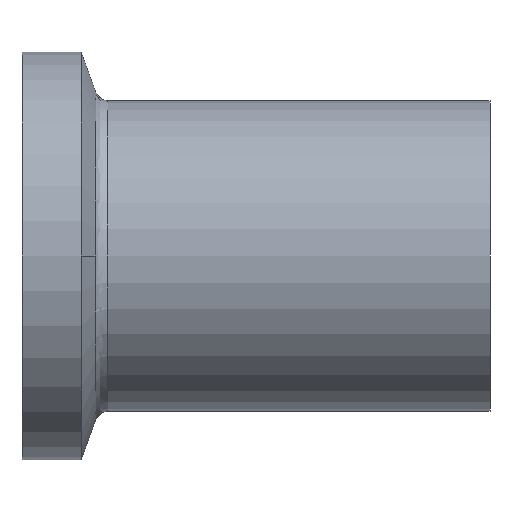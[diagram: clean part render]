
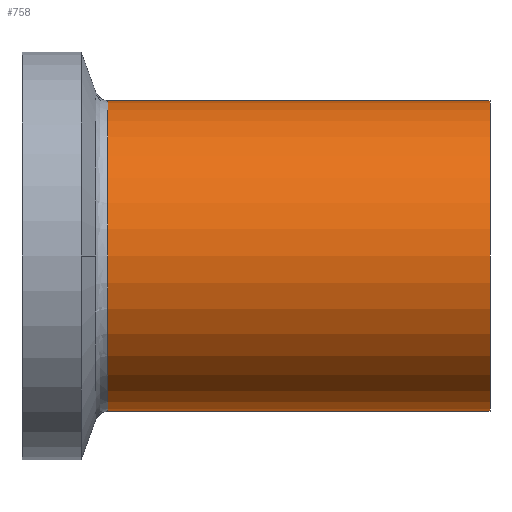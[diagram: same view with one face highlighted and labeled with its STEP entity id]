
A CAD part, front view. The second image highlights one B-rep face of the part: STEP entity #758.
In plain terms, the highlighted cylindrical face has radius 9.525 mm (diameter 19.05 mm), a partial arc.
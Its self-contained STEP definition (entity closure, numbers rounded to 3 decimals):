
#2 = DIRECTION ( 'NONE',  ( 0., 0., 1. ) ) ;
#61 = CARTESIAN_POINT ( 'NONE',  ( 28.7, 0., 9.525 ) ) ;
#146 = DIRECTION ( 'NONE',  ( -1., 0., 0. ) ) ;
#173 = DIRECTION ( 'NONE',  ( -1., 0., 0. ) ) ;
#174 = CIRCLE ( 'NONE', #526, 9.525 ) ;
#180 = ORIENTED_EDGE ( 'NONE', *, *, #215, .F. ) ;
#200 = DIRECTION ( 'NONE',  ( -1., 0., 0. ) ) ;
#206 = ORIENTED_EDGE ( 'NONE', *, *, #394, .T. ) ;
#212 = CARTESIAN_POINT ( 'NONE',  ( -9.765, 0., -9.525 ) ) ;
#215 = EDGE_CURVE ( 'NONE', #747, #500, #649, .T. ) ;
#224 = CARTESIAN_POINT ( 'NONE',  ( -9.765, 0., 9.525 ) ) ;
#233 = CIRCLE ( 'NONE', #631, 9.525 ) ;
#243 = ORIENTED_EDGE ( 'NONE', *, *, #551, .T. ) ;
#296 = EDGE_LOOP ( 'NONE', ( #180, #639, #243, #206 ) ) ;
#306 = DIRECTION ( 'NONE',  ( 0., 0., 1. ) ) ;
#328 = CARTESIAN_POINT ( 'NONE',  ( 5.265, 0., 9.525 ) ) ;
#367 = DIRECTION ( 'NONE',  ( 1., 0., 0. ) ) ;
#369 = LINE ( 'NONE', #224, #641 ) ;
#394 = EDGE_CURVE ( 'NONE', #640, #500, #174, .T. ) ;
#455 = CYLINDRICAL_SURFACE ( 'NONE', #752, 9.525 ) ;
#492 = VERTEX_POINT ( 'NONE', #61 ) ;
#500 = VERTEX_POINT ( 'NONE', #602 ) ;
#526 = AXIS2_PLACEMENT_3D ( 'NONE', #547, #367, #2 ) ;
#539 = CARTESIAN_POINT ( 'NONE',  ( -9.765, 0., 0. ) ) ;
#547 = CARTESIAN_POINT ( 'NONE',  ( 5.265, 0., 0. ) ) ;
#551 = EDGE_CURVE ( 'NONE', #492, #640, #369, .T. ) ;
#559 = CARTESIAN_POINT ( 'NONE',  ( 28.7, 0., 0. ) ) ;
#602 = CARTESIAN_POINT ( 'NONE',  ( 5.265, 0., -9.525 ) ) ;
#603 = DIRECTION ( 'NONE',  ( -1., 0., 0. ) ) ;
#620 = DIRECTION ( 'NONE',  ( 0., 0., 1. ) ) ;
#630 = VECTOR ( 'NONE', #146, 1000. ) ;
#631 = AXIS2_PLACEMENT_3D ( 'NONE', #559, #200, #620 ) ;
#636 = EDGE_CURVE ( 'NONE', #747, #492, #233, .T. ) ;
#639 = ORIENTED_EDGE ( 'NONE', *, *, #636, .T. ) ;
#640 = VERTEX_POINT ( 'NONE', #328 ) ;
#641 = VECTOR ( 'NONE', #173, 1000. ) ;
#649 = LINE ( 'NONE', #212, #630 ) ;
#661 = CARTESIAN_POINT ( 'NONE',  ( 28.7, 0., -9.525 ) ) ;
#707 = FACE_OUTER_BOUND ( 'NONE', #296, .T. ) ;
#747 = VERTEX_POINT ( 'NONE', #661 ) ;
#752 = AXIS2_PLACEMENT_3D ( 'NONE', #539, #603, #306 ) ;
#758 = ADVANCED_FACE ( 'NONE', ( #707 ), #455, .T. ) ;
